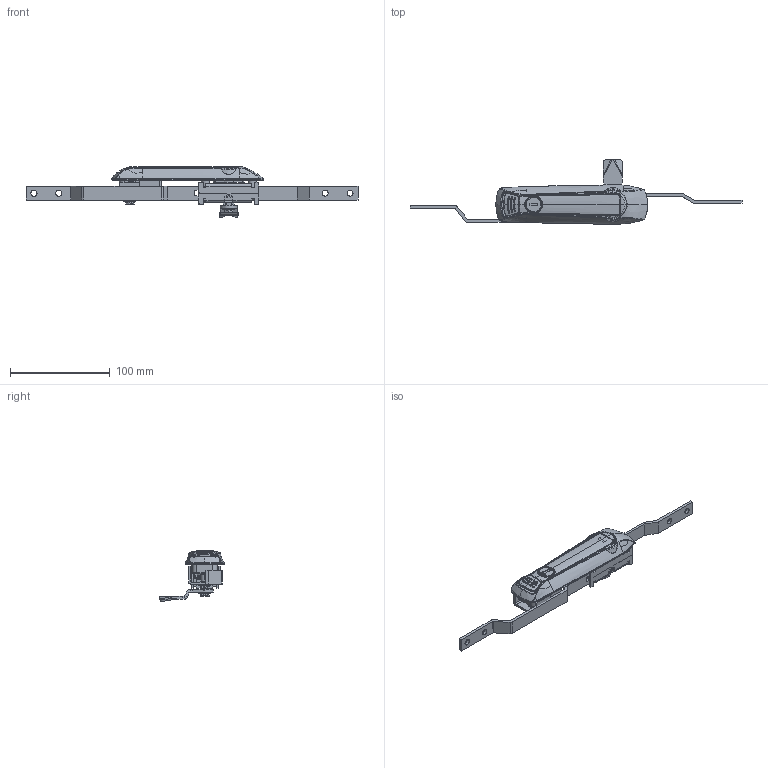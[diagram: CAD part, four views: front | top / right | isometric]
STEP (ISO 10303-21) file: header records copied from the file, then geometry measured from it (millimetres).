
FILE_DESCRIPTION (( 'STEP AP203' ), '1' );
FILE_NAME ('MS828Z2B020012+MS828-8蟀裝坶.STEP', '2025-04-14T07:39:05', ( 'SJ' ), ( '' ), 'SwSTEP 2.0', 'SolidWorks 2020', '' );
FILE_SCHEMA (( 'CONFIG_CONTROL_DESIGN' ));
Length unit declared in the file: millimetre
Products named in the file (22): S1A4507-1; MB01-T喘謫; 8sj-ms820-1-0380; DAITANGHUANGDIANLUODINGM4X18; 8SJ.MS828-8.0090; 外六角十一字防松螺钉SWM5X8; LUODING-22; 8SJ.MS828.0120; Mb01-T換雄褲; 8SJ-MS828-8-1-0030; 8SJ.MS828-8.0020; MS828Z2B020012+MS828-8蟀裝坶; Mb01-T換雄粣; MS828酗換雄沭; 3150100001-MB01-T隅弇璃; 外六角十一字防松螺钉M5x8; PINGDIAN-D4; L2B0020坶郋郪璃; 陔MS828-8價釱; 2040100053+Mb01-T換雄郪璃_1; 密封圈外径4.5X1; TANHUANGDIANQUAN
Assembly tree (23 placements, depth 3):
  MS828Z2B020012+MS828-8蟀裝坶
    陔MS828-8價釱
    8SJ.MS828-8.0090
    8SJ.MS828-8.0020
    L2B0020坶郋郪璃
    8SJ-MS828-8-1-0030
    8SJ.MS828.0120
    外六角十一字防松螺钉SWM5X8
    密封圈外径4.5X1
    DAITANGHUANGDIANLUODINGM4X18  x2
      LUODING-22
      PINGDIAN-D4
      TANHUANGDIANQUAN
    2040100053+Mb01-T換雄郪璃_1
      Mb01-T換雄褲  x2
      MB01-T喘謫
      Mb01-T換雄粣
      3150100001-MB01-T隅弇璃
      S1A4507-1
      外六角十一字防松螺钉M5x8
      MS828酗換雄沭
      8sj-ms820-1-0380
Bounding box: 333.6 x 64.63 x 51.16 mm (x, y, z)
Volume: 77656.9 mm3; surface area: 70842.9 mm2
Topology: 22 solids, 26 shells, 2772 faces, 7189 edges, 4305 vertices
Faces by surface type: bspline 1163, plane 792, cylinder 724, cone 49, torus 36, sphere 8
Entity records: 129200 total; most frequent: CARTESIAN_POINT 75399, ORIENTED_EDGE 12736, DIRECTION 7908, EDGE_CURVE 6370, VERTEX_POINT 3899, AXIS2_PLACEMENT_3D 2848, EDGE_LOOP 2659, ADVANCED_FACE 2552
